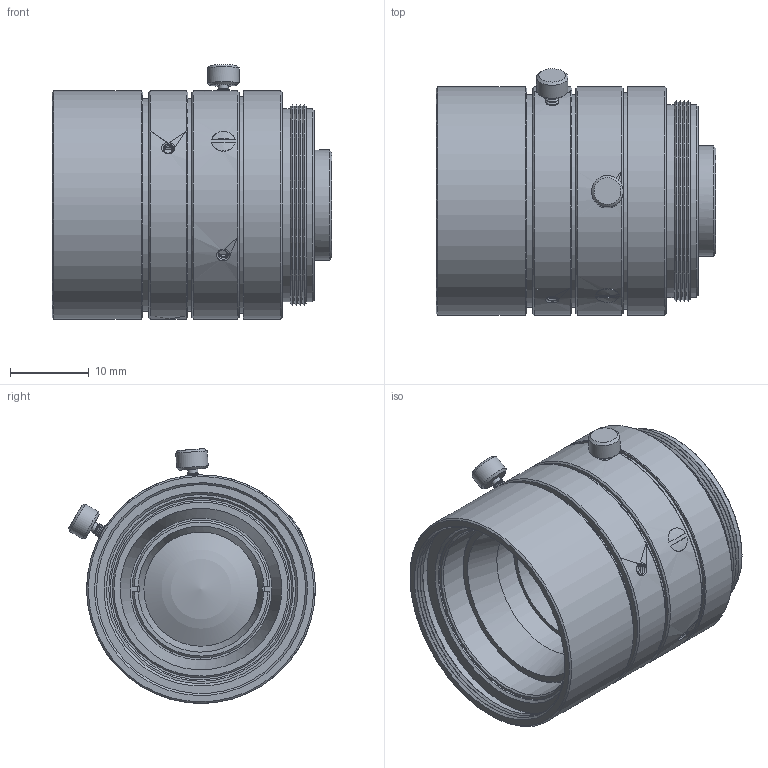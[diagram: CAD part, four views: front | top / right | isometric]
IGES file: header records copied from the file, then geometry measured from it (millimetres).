
Global section: file name: 153-13655_Objektiv LOC-16-HD-27x0,5; native system: Autodesk Inventor 2018; preprocessor: unknown; author: S.S.; date: 20200326.100508; units: millimetre
Bounding box: 35.51 x 31.28 x 32.33 mm (x, y, z)
Volume: 14559.8 mm3; surface area: 9699.1 mm2
Topology: 1 solids, 11 shells, 303 faces, 835 edges, 572 vertices
Faces by surface type: bspline 303
